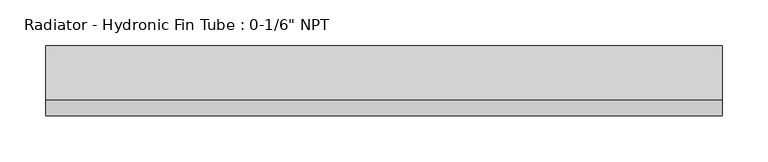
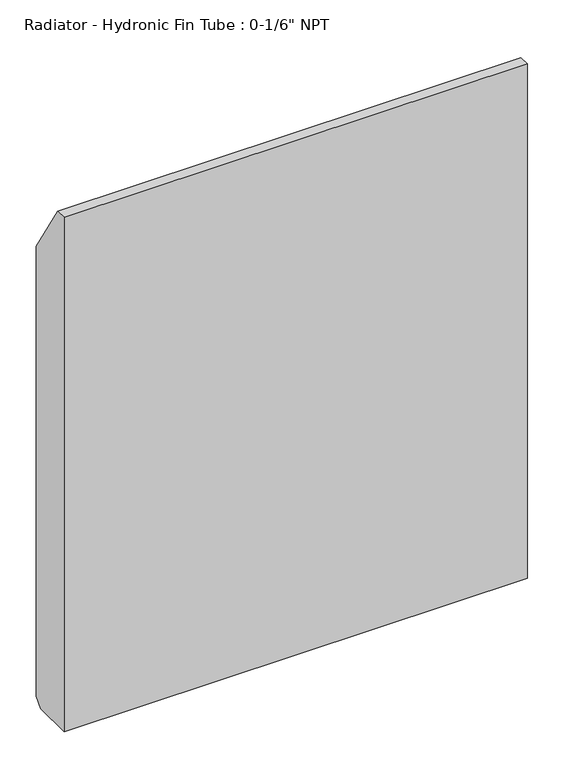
"""IFC4 building model written with IfcOpenShell, lengths in millimetres: proxy geometry."""

from ifc_helpers import new_model, si_unit, frame, origin, place, context, project, spatial, polyline, outline, extrude, source, transform, mapped, element, save


def proxy_d10d1fc8(model_context):
    return source(origin(), model_context, "Body", "SweptSolid", [
        extrude(outline(polyline([(241.3, 304.8), (177.8, 304.8), (177.8, 1168.4), (195.2625, 1168.4), (254.0, 1074.0279261), (254.0, 318.3779261), (241.3, 304.8)])), frame((-914.4, 0.0, 0.0), z_axis=(1.0, 0.0, 0.0), x_axis=(0.0, 1.0, 0.0)), (0.0, 0.0, 1.0), 736.6),
    ])


if __name__ == "__main__":
    model = new_model("IFC4")
    model_context = context("Model", 3, world=origin())
    ifc_project = project(units=[si_unit("LENGTHUNIT", "METRE", prefix="MILLI")], contexts=[model_context])
    site = spatial("IfcSite", under=ifc_project)
    building = spatial("IfcBuilding", under=site)
    placement = place(None, origin())
    proxy_shape = proxy_d10d1fc8(model_context)
    element("IfcBuildingElementProxy", 1, Name="Radiator - Hydronic Fin Tube : 0-1/6\" NPT", ObjectType="Radiator - Hydronic Fin Tube : 0-1/6\" NPT", at=placement, inside=building, context=model_context, shape_type="MappedRepresentation", body=[
        mapped(proxy_shape, transform((0.0, 0.0, 0.0), x_axis=(1.0, 0.0, 0.0), y_axis=(0.0, 1.0, 0.0), z_axis=(0.0, 0.0, 1.0))),
    ])
    save(model, "model.ifc")
